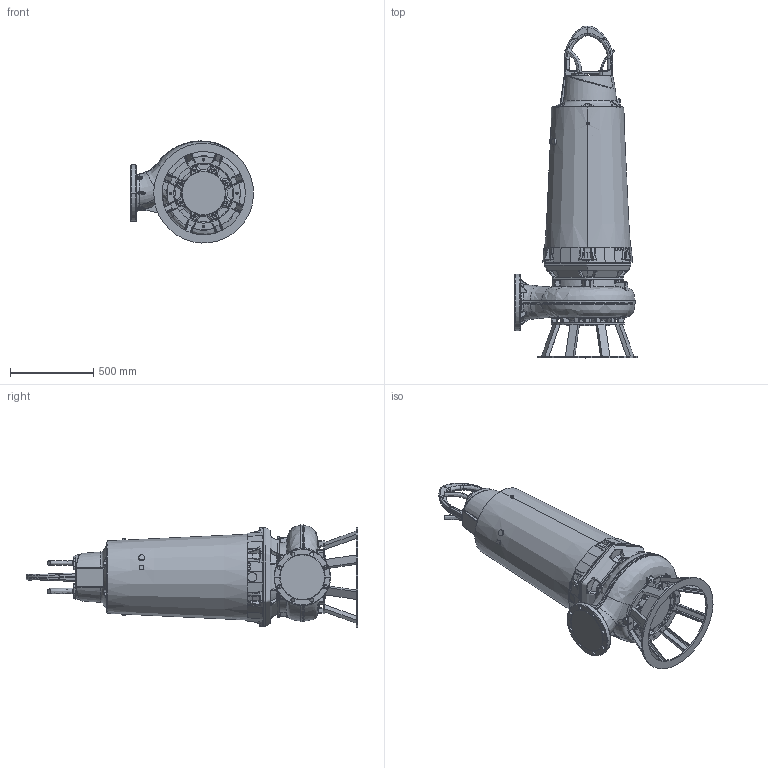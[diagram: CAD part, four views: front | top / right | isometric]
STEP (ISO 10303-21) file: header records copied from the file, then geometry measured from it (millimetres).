
FILE_DESCRIPTION (( 'STEP AP214' ), '1' );
FILE_NAME ('PE5_XFP200J-CH2_WET T_A_NG2.STEP', '2017-03-15T08:02:23', ( '' ), ( '' ), 'SwSTEP 2.0', 'SolidWorks 2017', '' );
FILE_SCHEMA (( 'AUTOMOTIVE_DESIGN' ));
Length unit declared in the file: millimetre
Products named in the file (1): PE5_XFP200J-CH2_WET T_A_NG2
Bounding box: 739.71 x 1994.47 x 613.47 mm (x, y, z)
Volume: 269499527.8 mm3; surface area: 3828864.7 mm2
Topology: 3 solids, 3 shells, 2487 faces, 6266 edges, 3723 vertices
Faces by surface type: bspline 903, plane 504, cylinder 492, cone 284, torus 266, sphere 38
Entity records: 175746 total; most frequent: CARTESIAN_POINT 96905, ORIENTED_EDGE 12324, DIRECTION 8790, EDGE_CURVE 6162, VERTEX_POINT 3723, AXIS2_PLACEMENT_3D 3601, EDGE_LOOP 2577, UNCERTAINTY_MEASURE_WITH_UNIT 2492
